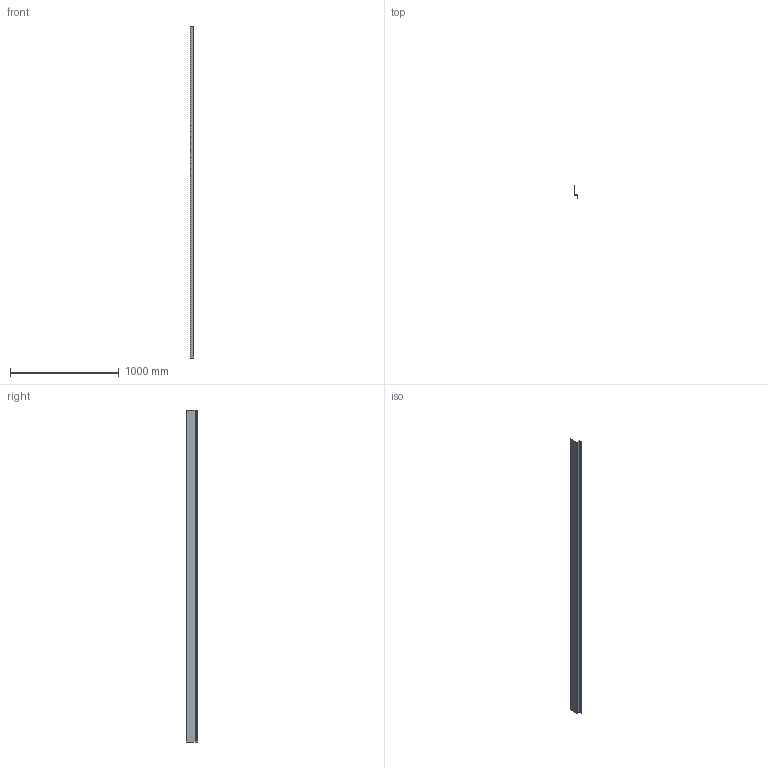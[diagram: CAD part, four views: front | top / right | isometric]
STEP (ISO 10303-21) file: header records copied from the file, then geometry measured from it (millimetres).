
FILE_DESCRIPTION (( 'STEP AP203' ), '1' );
FILE_NAME ('M50A.STEP', '2018-06-16T00:22:09', ( 'Michael Moliner' ), ( '' ), 'SwSTEP 2.0', 'SolidWorks 2018', '' );
FILE_SCHEMA (( 'CONFIG_CONTROL_DESIGN' ));
Length unit declared in the file: inch
Products named in the file (2): M50A
Bounding box: 32.26 x 107.29 x 3048 mm (x, y, z)
Volume: 234969.8 mm3; surface area: 928328.9 mm2
Topology: 1 solids, 1 shells, 18 faces, 48 edges, 32 vertices
Faces by surface type: plane 12, cylinder 6
Entity records: 721 total; most frequent: CARTESIAN_POINT 100, DIRECTION 100, ORIENTED_EDGE 96, EDGE_CURVE 48, VECTOR 36, LINE 36, AXIS2_PLACEMENT_3D 32, VERTEX_POINT 32
